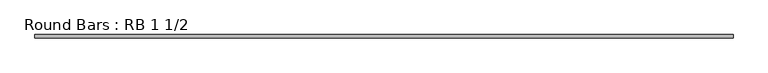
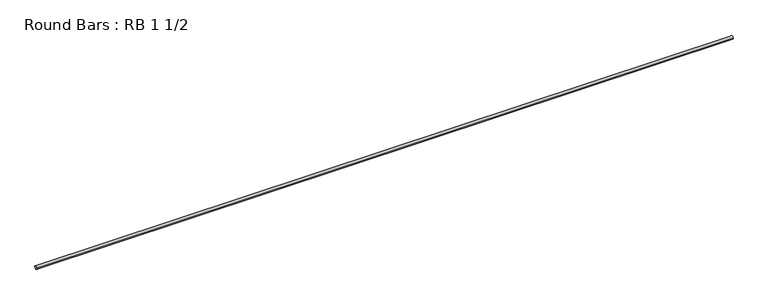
"""IFC4 building model written with IfcOpenShell, lengths in millimetres: member geometry, Round Bars : RB 1 1/2."""

from ifc_helpers import new_model, si_unit, point, frame, origin, origin_2d, place, context, project, spatial, circle_curve, trimmed, segment, composite_curve, outline, extrude, source, transform, mapped, element, save


def round_bars_rb_1_1_2_9ddfed39(model_context):
    return source(origin(), model_context, "Body", "SweptSolid", [
        extrude(outline(composite_curve([segment(trimmed(circle_curve(origin_2d(), 19.05), [point((19.05, 0.0))], [point((-19.05, 0.0))], False, "CARTESIAN"), True, "CONTINUOUS"), segment(trimmed(circle_curve(origin_2d(), 19.05), [point((-19.05, 0.0))], [point((19.05, 0.0))], False, "CARTESIAN"), True, "CONTINUOUS")], self_intersect=False)), frame((-4093.0523093, 0.0, 0.0), z_axis=(1.0, 0.0, 0.0), x_axis=(0.0, 1.0, 0.0)), (0.0, 0.0, 1.0), 8186.1046186),
    ])


if __name__ == "__main__":
    model = new_model("IFC4")
    model_context = context("Model", 3, world=origin())
    ifc_project = project(units=[si_unit("LENGTHUNIT", "METRE", prefix="MILLI")], contexts=[model_context])
    site = spatial("IfcSite", under=ifc_project)
    building = spatial("IfcBuilding", under=site)
    placement = place(None, origin())
    round_bars_rb_1_1_2_shape = round_bars_rb_1_1_2_9ddfed39(model_context)
    element("IfcMember", 1, ObjectType="Round Bars : RB 1 1/2", at=placement, inside=building, context=model_context, shape_type="MappedRepresentation", body=[
        mapped(round_bars_rb_1_1_2_shape, transform((0.0, 0.0, 0.0), x_axis=(1.0, 0.0, 0.0), y_axis=(0.0, 1.0, 0.0), z_axis=(0.0, 0.0, 1.0))),
    ])
    save(model, "model.ifc")
